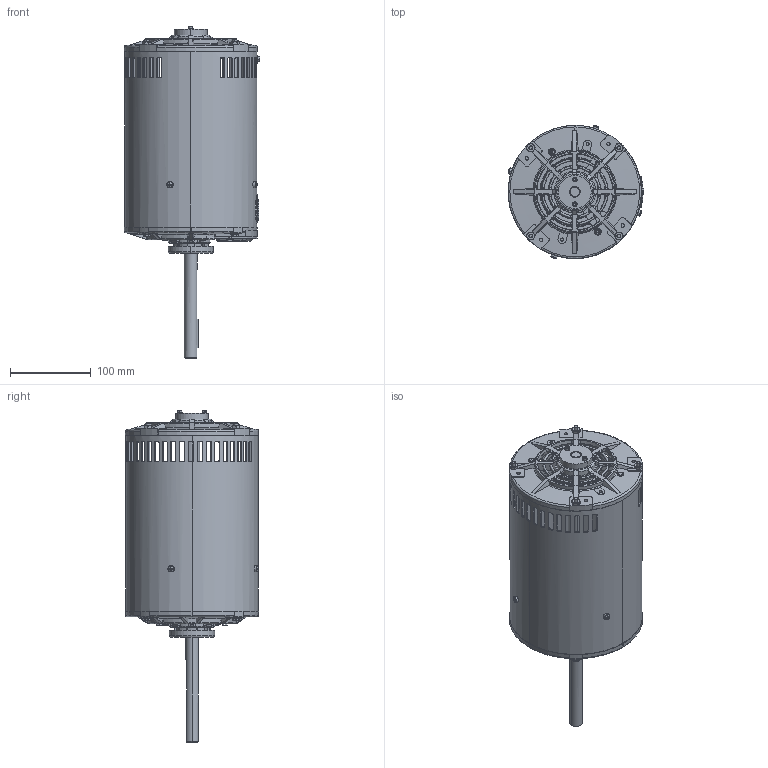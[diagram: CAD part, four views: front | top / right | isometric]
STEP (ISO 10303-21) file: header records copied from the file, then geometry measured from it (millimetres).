
FILE_DESCRIPTION (( 'STEP AP203' ), '1' );
FILE_NAME ('607-0314-001_RevF.STEP', '2018-12-04T20:24:35', ( 'RBC' ), ( 'RBC' ), 'SwSTEP 2.0', 'SolidWorks 2015', '' );
FILE_SCHEMA (( 'CONFIG_CONTROL_DESIGN' ));
Products named in the file (1): 607-0314-001_RevF
Bounding box: 167.51 x 164.65 x 410.26 mm (x, y, z)
Volume: 538346.8 mm3; surface area: 425489.7 mm2
Topology: 30 solids, 30 shells, 2974 faces, 7911 edges, 4994 vertices
Faces by surface type: plane 955, bspline 630, cone 562, cylinder 502, torus 291, sphere 34
Entity records: 117768 total; most frequent: CARTESIAN_POINT 50769, ORIENTED_EDGE 15782, DIRECTION 11807, EDGE_CURVE 7891, VERTEX_POINT 4994, AXIS2_PLACEMENT_3D 4908, EDGE_LOOP 3169, B_SPLINE_CURVE_WITH_KNOTS 3123
